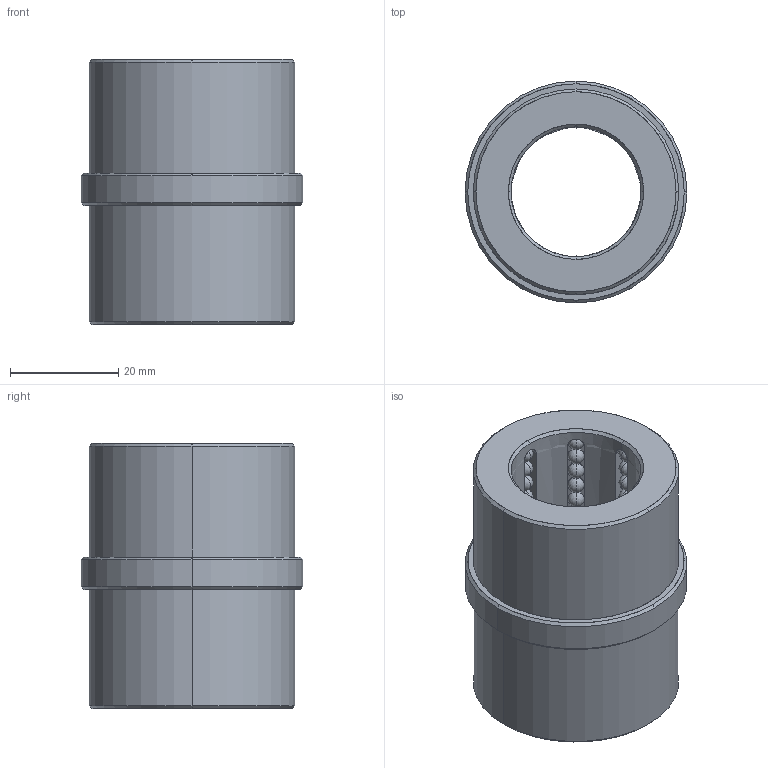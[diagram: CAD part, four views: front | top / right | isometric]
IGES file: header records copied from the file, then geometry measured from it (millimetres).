
Start section: START RECORD GO HERE.
Global section: file name: B844242227.igs; native system: DASSAULT SYSTEMES CATIA V5 R20 - www.3ds.com; preprocessor: CATIA Version 5 Release 20 ; author: Utente; organization: NB04-ASUS; date: 20200419.200645; units: millimetre
Bounding box: 41 x 41 x 49 mm (x, y, z)
Surface area: 16518.9 mm2 (no closed solid volume)
Topology: 0 solids, 0 shells, 524 faces, 2164 edges, 1268 vertices
Faces by surface type: revolution 496, plane 28
